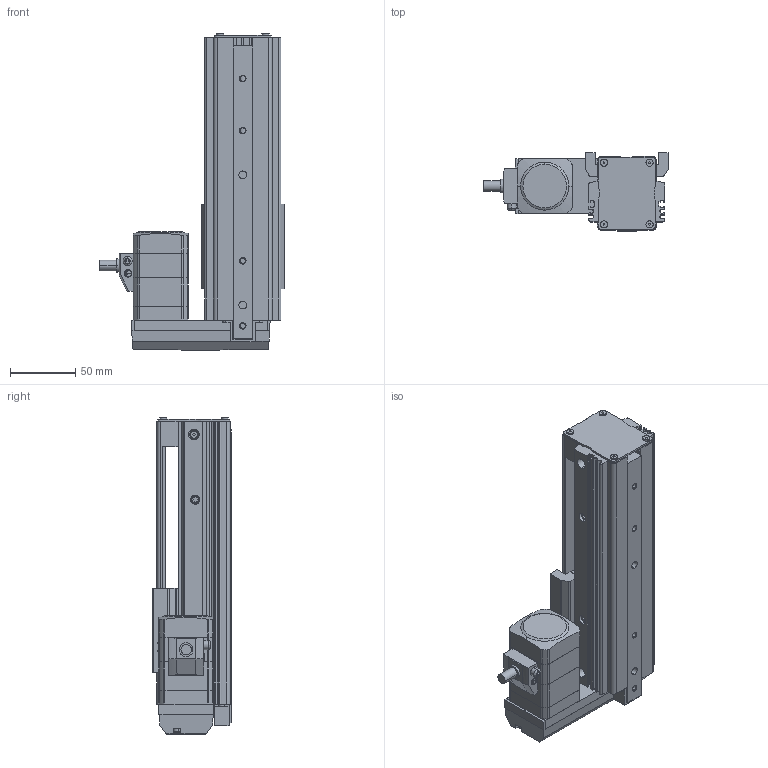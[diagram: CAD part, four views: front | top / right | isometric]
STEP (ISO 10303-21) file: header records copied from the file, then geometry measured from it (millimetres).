
FILE_DESCRIPTION (( 'STEP AP203' ), '1' );
FILE_NAME ('EASM4RXD010ARAC.step', '2013-10-09T08:48:05', ( 'om' ), ( 'Hewlett-Packard Company' ), 'SwSTEP 2.0', 'SolidWorks 2011', '' );
FILE_SCHEMA (( 'CONFIG_CONTROL_DESIGN' ));
Length unit declared in the file: millimetre
Products named in the file (4): EASM4RXD010ARAC_Motor; EASM4RXD010ARAC_Table; EASM4RXD010ARAC; EASM4RXD010ARAC_BASE
Assembly tree (3 placements, depth 2):
  EASM4RXD010ARAC
    EASM4RXD010ARAC_Table
    EASM4RXD010ARAC_Motor
    EASM4RXD010ARAC_BASE
Bounding box: 142 x 60 x 243.1 mm (x, y, z)
Volume: 618743.4 mm3; surface area: 168486.1 mm2
Topology: 3 solids, 13 shells, 955 faces, 2474 edges, 1599 vertices
Faces by surface type: plane 538, cylinder 337, cone 60, torus 16, bspline 4
Entity records: 29658 total; most frequent: CARTESIAN_POINT 5290, DIRECTION 5083, ORIENTED_EDGE 4900, EDGE_CURVE 2450, AXIS2_PLACEMENT_3D 1708, LINE 1667, VECTOR 1667, VERTEX_POINT 1599
